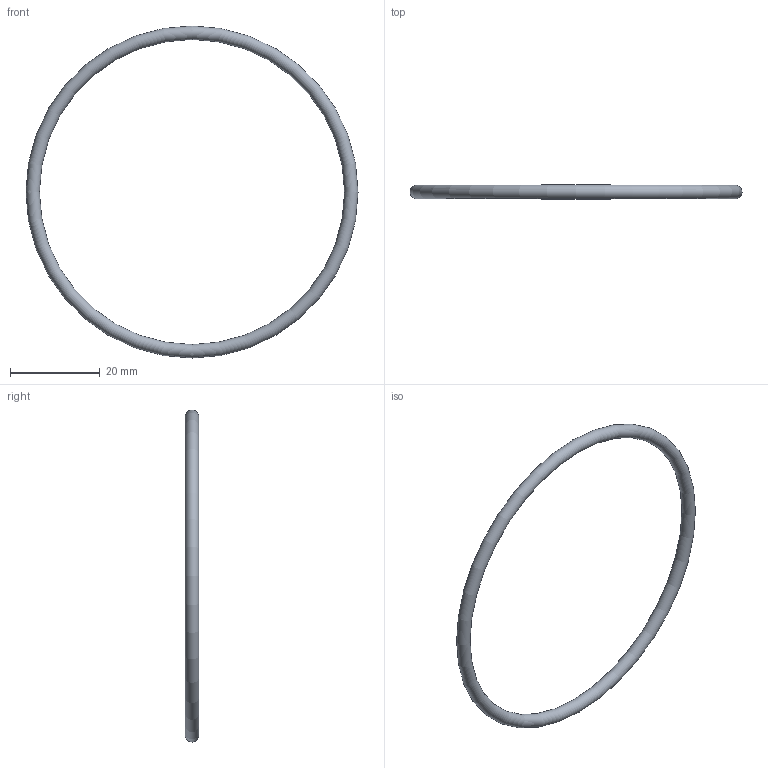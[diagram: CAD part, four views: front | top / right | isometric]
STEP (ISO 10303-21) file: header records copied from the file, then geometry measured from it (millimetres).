
FILE_DESCRIPTION( ( 'STEP AP203' ), '1' );
FILE_NAME( 'C:/Temp/Ganter_Step_05_03_2020/data/3_5/or638/O-Ring OR638-68.00-3.00-70.stp', '2020-03-12T13:44:32', ( 'License CC BY-ND 4.0' ), ( 'CADENAS' ), ' ', 'PARTsolutions', ' ' );
FILE_SCHEMA( ( 'CONFIG_CONTROL_DESIGN' ) );
Length unit declared in the file: millimetre
Products named in the file (1): _O-Ring OR638-68.00-3.00-70
Bounding box: 74 x 3 x 74 mm (x, y, z)
Volume: 1576.7 mm3; surface area: 2102.2 mm2
Topology: 1 solids, 1 shells, 1 faces, 2 edges, 1 vertices
Faces by surface type: torus 1
Entity records: 62 total; most frequent: CC_DESIGN_PERSON_AND_ORGANIZATION_ASSIGNMENT 5, PERSON_AND_ORGANIZATION_ROLE 4, DIRECTION 4, CARTESIAN_POINT 3, DATE_TIME_ROLE 2, CC_DESIGN_DATE_AND_TIME_ASSIGNMENT 2, AXIS2_PLACEMENT_3D 2, DIMENSIONAL_EXPONENTS 2
